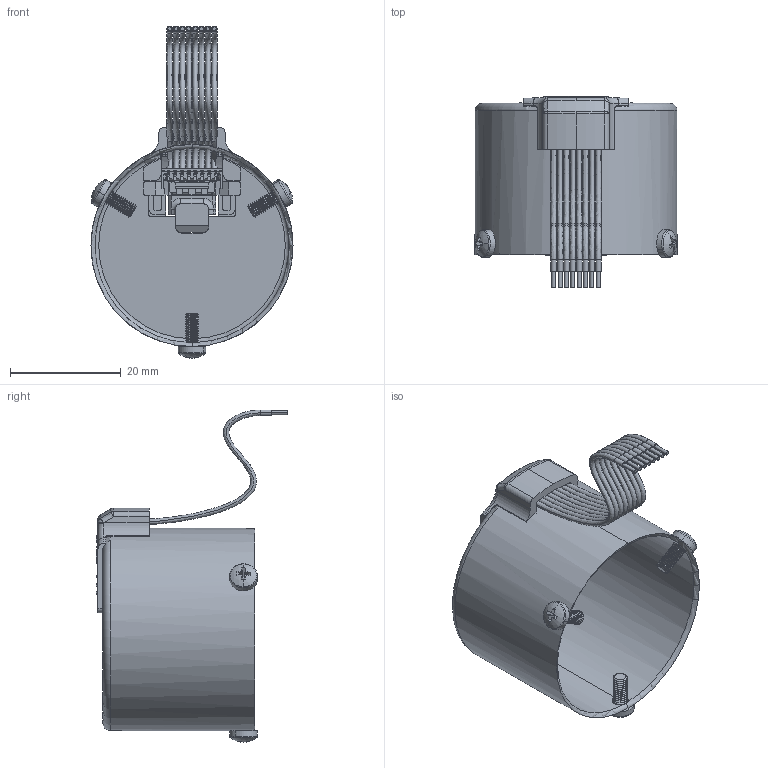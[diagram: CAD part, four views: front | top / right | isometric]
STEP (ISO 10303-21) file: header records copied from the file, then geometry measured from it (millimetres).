
FILE_DESCRIPTION (( 'STEP AP214' ), '1' );
FILE_NAME ('kc-3-cn-280-szs-nnn-0c1-a.STEP', '2020-11-12T15:11:01', ( '' ), ( '' ), 'SwSTEP 2.0', 'SolidWorks 2019', '' );
FILE_SCHEMA (( 'AUTOMOTIVE_DESIGN' ));
Length unit declared in the file: millimetre
Products named in the file (1): kc-3-cn-280-szs-nnn-0c1-a
Bounding box: 36.5 x 34.6 x 59.96 mm (x, y, z)
Volume: 3907.1 mm3; surface area: 11213.6 mm2
Topology: 23 solids, 23 shells, 1131 faces, 3085 edges, 1961 vertices
Faces by surface type: plane 565, cylinder 234, cone 181, bspline 100, torus 35, sphere 16
Entity records: 58674 total; most frequent: CARTESIAN_POINT 17687, ORIENTED_EDGE 6154, DIRECTION 5645, EDGE_CURVE 3077, VERTEX_POINT 1961, VECTOR 1901, LINE 1901, AXIS2_PLACEMENT_3D 1872
